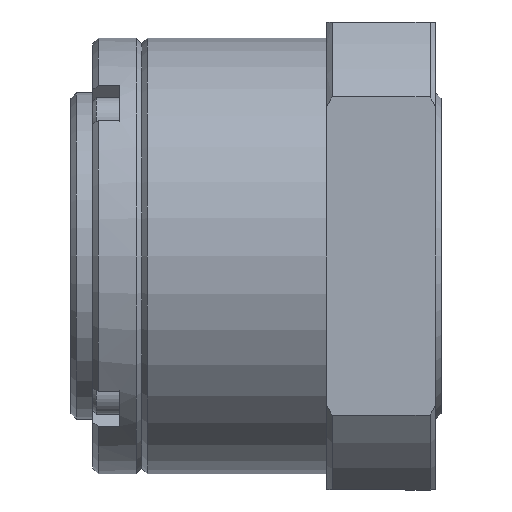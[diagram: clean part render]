
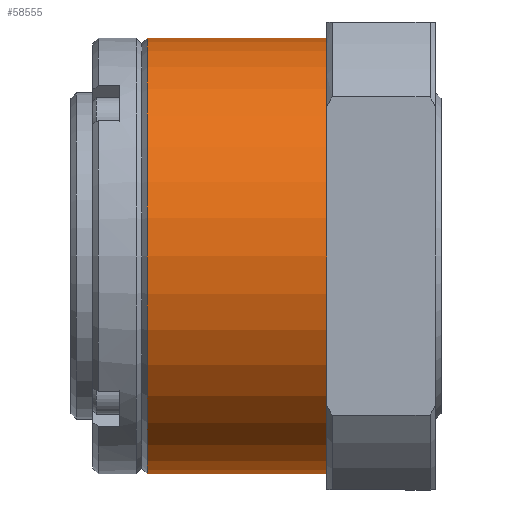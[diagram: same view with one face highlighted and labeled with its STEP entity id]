
A CAD part, left-side view. The second image highlights one B-rep face of the part: STEP entity #58555.
In plain terms, the highlighted cylindrical face has radius 20 mm (diameter 40 mm), a partial arc.
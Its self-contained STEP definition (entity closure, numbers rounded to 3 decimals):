
#2574 = ORIENTED_EDGE ( 'NONE', *, *, #30444, .F. ) ;
#4908 = DIRECTION ( 'NONE',  ( 0., 0., -1. ) ) ;
#5047 = VECTOR ( 'NONE', #70670, 1000. ) ;
#6023 = DIRECTION ( 'NONE',  ( 0., 1., 0. ) ) ;
#14624 = EDGE_CURVE ( 'NONE', #74600, #73520, #76996, .T. ) ;
#15883 = CARTESIAN_POINT ( 'NONE',  ( 0., 19.5, 0. ) ) ;
#18960 = AXIS2_PLACEMENT_3D ( 'NONE', #85064, #44953, #4908 ) ;
#26664 = CYLINDRICAL_SURFACE ( 'NONE', #61732, 20. ) ;
#26700 = CARTESIAN_POINT ( 'NONE',  ( 0., 19.5, 20. ) ) ;
#27668 = EDGE_CURVE ( 'NONE', #83156, #74600, #74074, .T. ) ;
#30444 = EDGE_CURVE ( 'NONE', #58778, #73520, #85382, .T. ) ;
#35182 = ORIENTED_EDGE ( 'NONE', *, *, #14624, .T. ) ;
#37595 = CARTESIAN_POINT ( 'NONE',  ( 0., 19.5, -20. ) ) ;
#38375 = CARTESIAN_POINT ( 'NONE',  ( 0., -4., 20. ) ) ;
#40079 = EDGE_LOOP ( 'NONE', ( #2574, #56675, #76590, #35182 ) ) ;
#44953 = DIRECTION ( 'NONE',  ( 0., -1., 0. ) ) ;
#46063 = CARTESIAN_POINT ( 'NONE',  ( 0., -4., 0. ) ) ;
#47530 = CARTESIAN_POINT ( 'NONE',  ( 0., -4., -20. ) ) ;
#52799 = DIRECTION ( 'NONE',  ( 0., 0., -1. ) ) ;
#56675 = ORIENTED_EDGE ( 'NONE', *, *, #74373, .T. ) ;
#58555 = ADVANCED_FACE ( 'NONE', ( #62235 ), #26664, .T. ) ;
#58778 = VERTEX_POINT ( 'NONE', #79382 ) ;
#61732 = AXIS2_PLACEMENT_3D ( 'NONE', #15883, #69132, #62659 ) ;
#62235 = FACE_OUTER_BOUND ( 'NONE', #40079, .T. ) ;
#62659 = DIRECTION ( 'NONE',  ( 0., 0., -1. ) ) ;
#63728 = CARTESIAN_POINT ( 'NONE',  ( 0., 12.5, -20. ) ) ;
#66798 = DIRECTION ( 'NONE',  ( 0., -1., 0. ) ) ;
#69132 = DIRECTION ( 'NONE',  ( 0., -1., 0. ) ) ;
#69633 = VECTOR ( 'NONE', #66798, 1000. ) ;
#70544 = AXIS2_PLACEMENT_3D ( 'NONE', #46063, #6023, #52799 ) ;
#70670 = DIRECTION ( 'NONE',  ( 0., -1., 0. ) ) ;
#73520 = VERTEX_POINT ( 'NONE', #38375 ) ;
#74074 = LINE ( 'NONE', #37595, #5047 ) ;
#74373 = EDGE_CURVE ( 'NONE', #58778, #83156, #80865, .T. ) ;
#74600 = VERTEX_POINT ( 'NONE', #47530 ) ;
#76590 = ORIENTED_EDGE ( 'NONE', *, *, #27668, .T. ) ;
#76996 = CIRCLE ( 'NONE', #70544, 20. ) ;
#79382 = CARTESIAN_POINT ( 'NONE',  ( 0., 12.5, 20. ) ) ;
#80865 = CIRCLE ( 'NONE', #18960, 20. ) ;
#83156 = VERTEX_POINT ( 'NONE', #63728 ) ;
#85064 = CARTESIAN_POINT ( 'NONE',  ( 0., 12.5, 0. ) ) ;
#85382 = LINE ( 'NONE', #26700, #69633 ) ;
